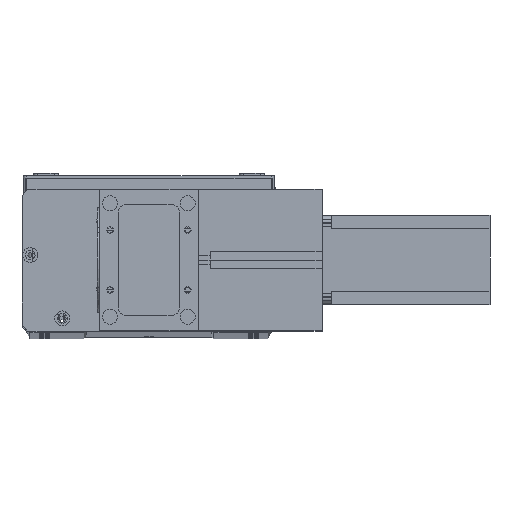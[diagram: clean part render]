
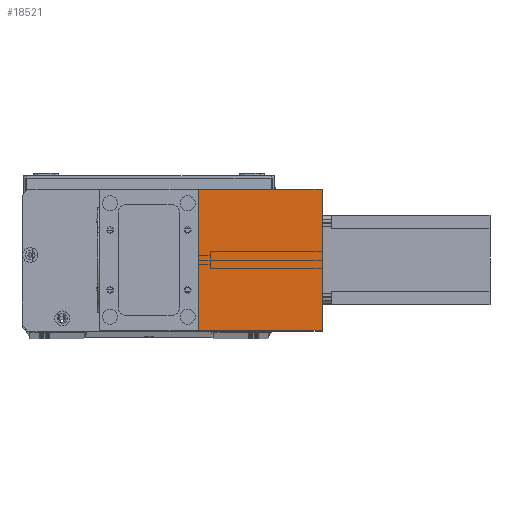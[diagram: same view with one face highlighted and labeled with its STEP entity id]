
A CAD part, top view. The second image highlights one B-rep face of the part: STEP entity #18521.
In plain terms, the highlighted planar face has unit normal (0, 0, 1) as drawn and (1, 0, 0) by its records, which use the part's own axes.
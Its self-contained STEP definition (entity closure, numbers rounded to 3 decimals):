
#6 = LINE ( 'NONE', #16294, #23815 ) ;
#127 = LINE ( 'NONE', #729, #24631 ) ;
#725 = DIRECTION ( 'NONE',  ( 0., 0., -1. ) ) ;
#729 = CARTESIAN_POINT ( 'NONE',  ( 82., 0., 83. ) ) ;
#1152 = CARTESIAN_POINT ( 'NONE',  ( 82., 0., 83. ) ) ;
#1910 = CARTESIAN_POINT ( 'NONE',  ( 82., 95., 0. ) ) ;
#7727 = CARTESIAN_POINT ( 'NONE',  ( 82., 95., 83. ) ) ;
#7859 = CARTESIAN_POINT ( 'NONE',  ( 82., 0., 0. ) ) ;
#8208 = ORIENTED_EDGE ( 'NONE', *, *, #11846, .F. ) ;
#8544 = VERTEX_POINT ( 'NONE', #17612 ) ;
#9136 = VECTOR ( 'NONE', #14448, 1000. ) ;
#9597 = EDGE_CURVE ( 'NONE', #18217, #8544, #127, .T. ) ;
#9981 = ORIENTED_EDGE ( 'NONE', *, *, #12644, .F. ) ;
#10649 = EDGE_CURVE ( 'NONE', #8544, #11245, #28959, .T. ) ;
#11245 = VERTEX_POINT ( 'NONE', #1910 ) ;
#11846 = EDGE_CURVE ( 'NONE', #14164, #11245, #15370, .T. ) ;
#12180 = DIRECTION ( 'NONE',  ( 0., 0., 1. ) ) ;
#12392 = DIRECTION ( 'NONE',  ( 0., 1., 0. ) ) ;
#12644 = EDGE_CURVE ( 'NONE', #18217, #14164, #6, .T. ) ;
#13286 = ORIENTED_EDGE ( 'NONE', *, *, #9597, .T. ) ;
#13324 = DIRECTION ( 'NONE',  ( 0., 1., 0. ) ) ;
#14164 = VERTEX_POINT ( 'NONE', #7727 ) ;
#14448 = DIRECTION ( 'NONE',  ( 0., 0., -1. ) ) ;
#14759 = CARTESIAN_POINT ( 'NONE',  ( 82., 95., 83. ) ) ;
#15370 = LINE ( 'NONE', #14759, #9136 ) ;
#15825 = VECTOR ( 'NONE', #12392, 1000. ) ;
#16179 = EDGE_LOOP ( 'NONE', ( #24334, #8208, #9981, #13286 ) ) ;
#16294 = CARTESIAN_POINT ( 'NONE',  ( 82., 0., 83. ) ) ;
#17612 = CARTESIAN_POINT ( 'NONE',  ( 82., 0., 0. ) ) ;
#18217 = VERTEX_POINT ( 'NONE', #1152 ) ;
#18521 = ADVANCED_FACE ( 'NONE', ( #28056 ), #23882, .F. ) ;
#19182 = CARTESIAN_POINT ( 'NONE',  ( 82., 0., 83. ) ) ;
#23815 = VECTOR ( 'NONE', #13324, 1000. ) ;
#23882 = PLANE ( 'NONE',  #24894 ) ;
#24334 = ORIENTED_EDGE ( 'NONE', *, *, #10649, .T. ) ;
#24631 = VECTOR ( 'NONE', #725, 1000. ) ;
#24894 = AXIS2_PLACEMENT_3D ( 'NONE', #19182, #26180, #12180 ) ;
#26180 = DIRECTION ( 'NONE',  ( -1., 0., 0. ) ) ;
#28056 = FACE_OUTER_BOUND ( 'NONE', #16179, .T. ) ;
#28959 = LINE ( 'NONE', #7859, #15825 ) ;
